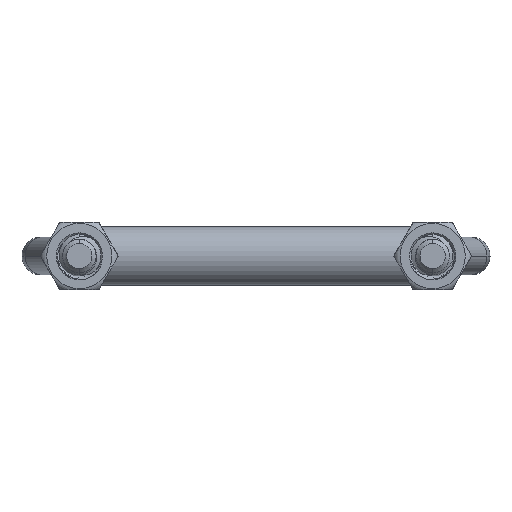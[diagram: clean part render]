
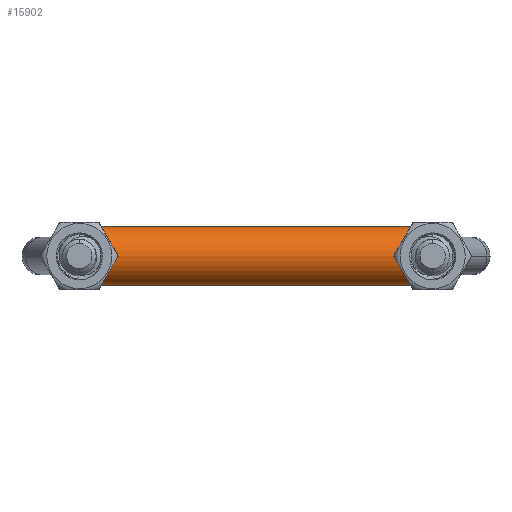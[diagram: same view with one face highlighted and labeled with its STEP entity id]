
A CAD part, front view. The second image highlights one B-rep face of the part: STEP entity #15902.
In plain terms, the highlighted cylindrical face has radius 7 mm (diameter 14 mm), a partial arc.
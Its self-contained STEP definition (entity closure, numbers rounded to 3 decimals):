
#113 = CARTESIAN_POINT ( 'NONE',  ( -41.126, 53., 7. ) ) ;
#1581 = DIRECTION ( 'NONE',  ( 0., 0., 1. ) ) ;
#3545 = VERTEX_POINT ( 'NONE', #8333 ) ;
#3771 = CARTESIAN_POINT ( 'NONE',  ( -37.55, 53., -7. ) ) ;
#3974 = EDGE_CURVE ( 'NONE', #21615, #3545, #13292, .T. ) ;
#4013 = DIRECTION ( 'NONE',  ( -1., 0., 0. ) ) ;
#5012 = CIRCLE ( 'NONE', #19449, 7. ) ;
#5088 = DIRECTION ( 'NONE',  ( 0., 0., 1. ) ) ;
#6664 = AXIS2_PLACEMENT_3D ( 'NONE', #17045, #9515, #1581 ) ;
#7253 = CYLINDRICAL_SURFACE ( 'NONE', #6664, 7. ) ;
#7680 = DIRECTION ( 'NONE',  ( -1., 0., 0. ) ) ;
#7898 = EDGE_CURVE ( 'NONE', #12542, #23353, #5012, .T. ) ;
#8333 = CARTESIAN_POINT ( 'NONE',  ( -37.55, 53., 7. ) ) ;
#8583 = DIRECTION ( 'NONE',  ( 0., 0., 1. ) ) ;
#8728 = DIRECTION ( 'NONE',  ( -1., 0., 0. ) ) ;
#9274 = EDGE_CURVE ( 'NONE', #12542, #21615, #13709, .T. ) ;
#9515 = DIRECTION ( 'NONE',  ( -1., 0., 0. ) ) ;
#9701 = CARTESIAN_POINT ( 'NONE',  ( -41.126, 53., -7. ) ) ;
#12542 = VERTEX_POINT ( 'NONE', #21525 ) ;
#13097 = EDGE_LOOP ( 'NONE', ( #21588, #20221, #20347, #21578 ) ) ;
#13292 = CIRCLE ( 'NONE', #19709, 7. ) ;
#13709 = LINE ( 'NONE', #9701, #22439 ) ;
#14095 = CARTESIAN_POINT ( 'NONE',  ( 37.55, 53., 0. ) ) ;
#15597 = EDGE_CURVE ( 'NONE', #23353, #3545, #17330, .T. ) ;
#15902 = ADVANCED_FACE ( 'NONE', ( #19043 ), #7253, .T. ) ;
#16231 = DIRECTION ( 'NONE',  ( -1., 0., 0. ) ) ;
#16344 = CARTESIAN_POINT ( 'NONE',  ( 37.55, 53., 7. ) ) ;
#17045 = CARTESIAN_POINT ( 'NONE',  ( -41.126, 53., 0. ) ) ;
#17330 = LINE ( 'NONE', #113, #22251 ) ;
#19043 = FACE_OUTER_BOUND ( 'NONE', #13097, .T. ) ;
#19449 = AXIS2_PLACEMENT_3D ( 'NONE', #14095, #16231, #8583 ) ;
#19709 = AXIS2_PLACEMENT_3D ( 'NONE', #23907, #8728, #5088 ) ;
#20221 = ORIENTED_EDGE ( 'NONE', *, *, #7898, .T. ) ;
#20347 = ORIENTED_EDGE ( 'NONE', *, *, #15597, .T. ) ;
#21525 = CARTESIAN_POINT ( 'NONE',  ( 37.55, 53., -7. ) ) ;
#21578 = ORIENTED_EDGE ( 'NONE', *, *, #3974, .F. ) ;
#21588 = ORIENTED_EDGE ( 'NONE', *, *, #9274, .F. ) ;
#21615 = VERTEX_POINT ( 'NONE', #3771 ) ;
#22251 = VECTOR ( 'NONE', #4013, 1000. ) ;
#22439 = VECTOR ( 'NONE', #7680, 1000. ) ;
#23353 = VERTEX_POINT ( 'NONE', #16344 ) ;
#23907 = CARTESIAN_POINT ( 'NONE',  ( -37.55, 53., 0. ) ) ;
